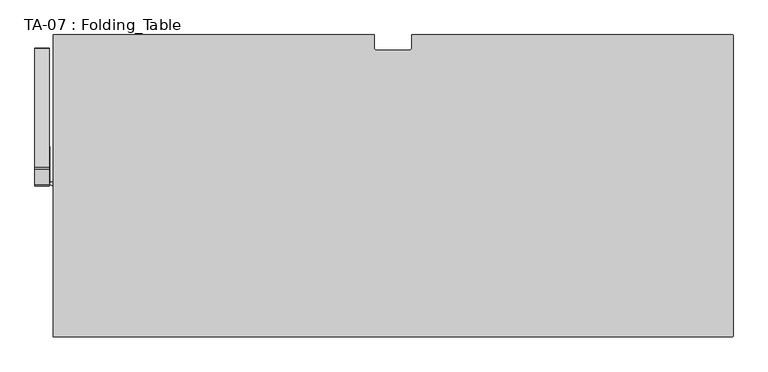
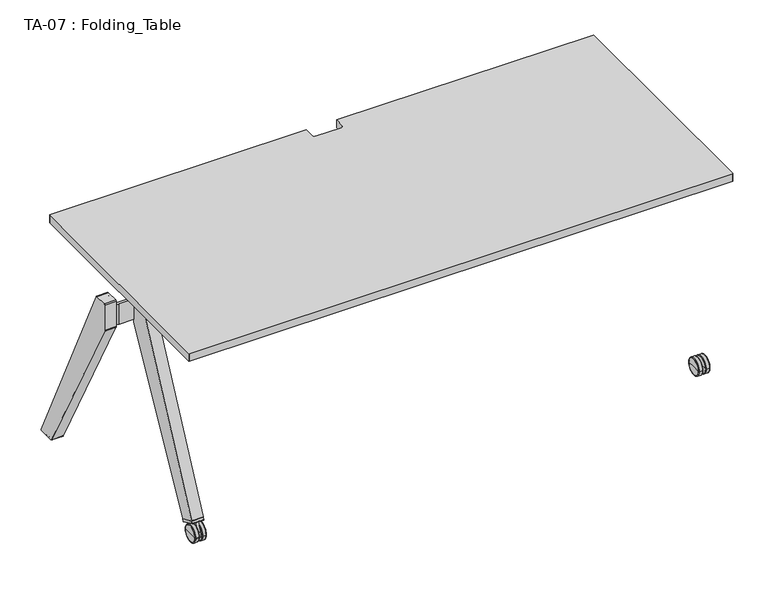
"""IFC4 building model written with IfcOpenShell, lengths in millimetres: furniture geometry, TA-07 : Folding_Table."""

from ifc_helpers import new_model, si_unit, point, frame, frame_2d, origin, place, context, project, spatial, polyline, circle_curve, ellipse_curve, trimmed, segment, composite_curve, outline, extrude, source, transform, mapped, element, save
from ifc_brep_helpers import plane_surface, cylinder_surface, revolved_surface, extruded_surface, spline_curve, advanced_brep


def ta_07_folding_table_425944e8(model_context):
    return source(origin(), model_context, "Body", "SolidModel", [
        extrude(outline(composite_curve([segment(polyline([(49.9986267, -34.0133667), (49.9986267, 0.0), (898.5316498, 0.0)]), True, "CONTINUOUS"), segment(trimmed(circle_curve(frame_2d((898.5316498, -1.4669769)), 1.4669769), [point((898.5316498, 0.0))], [point((899.9986267, -1.4669769))], False, "CARTESIAN"), True, "CONTINUOUS"), segment(polyline([(899.9986267, -1.4669769), (899.9986267, -798.4539807)]), True, "CONTINUOUS"), segment(trimmed(circle_curve(frame_2d((898.4526075, -798.4539807)), 1.5460193), [point((899.9986267, -798.4539807))], [point((898.4526075, -800.0))], False, "CARTESIAN"), True, "CONTINUOUS"), segment(polyline([(898.4526075, -800.0), (-898.4775657, -800.0)]), True, "CONTINUOUS"), segment(trimmed(circle_curve(frame_2d((-898.4775657, -798.4761924)), 1.5238076), [point((-898.4775657, -800.0))], [point((-900.0013733, -798.4761924))], False, "CARTESIAN"), True, "CONTINUOUS"), segment(polyline([(-900.0013733, -798.4761924), (-900.0013733, -1.5356928)]), True, "CONTINUOUS"), segment(trimmed(circle_curve(frame_2d((-898.4656805, -1.5356928)), 1.5356928), [point((-900.0013733, -1.5356928))], [point((-898.4656805, 0.0))], False, "CARTESIAN"), True, "CONTINUOUS"), segment(polyline([(-898.4656805, 0.0), (-50.0013733, 0.0), (-50.0013733, -34.0136719)]), True, "CONTINUOUS"), segment(trimmed(circle_curve(frame_2d((-43.5023498, -34.0136719)), 6.4990234), [point((-50.0013733, -34.0136719))], [point((-43.5023498, -40.5126953))], True, "CARTESIAN"), True, "CONTINUOUS"), segment(polyline([(-43.5023498, -40.5126953), (43.4992981, -40.5126953)]), True, "CONTINUOUS"), segment(trimmed(circle_curve(frame_2d((43.4992981, -34.0133667)), 6.4993286), [point((43.4992981, -40.5126953))], [point((49.9986267, -34.0133667))], True, "CARTESIAN"), True, "CONTINUOUS")], self_intersect=False)), frame((0.0, 0.0, 694.5959473), z_axis=(0.0, 0.0, 1.0), x_axis=(1.0, 0.0, 0.0)), (0.0, 0.0, 1.0), 26.6889191),
        advanced_brep(
        [(-851.9981384, -750.0700684, 28.801899), (-851.9981384, -696.0700684, 28.801899), (-837.8330994, -696.0700684, 28.801899), (-837.8330994, -750.0700684, 28.801899), (-851.9981384, -723.0700684, 28.801899), (-837.8330994, -723.0700684, 28.801899)],
        [
            (0, 1, circle_curve(frame((-851.9981384, -723.0700684, 28.801899), z_axis=(1.0, 0.0, 0.0), x_axis=(0.0, 1.0, 0.0)), 27.0)),
            (1, 2),
            (2, 3, circle_curve(frame((-837.8330994, -723.0700684, 28.801899), z_axis=(-1.0, 0.0, 0.0), x_axis=(0.0, 1.0, 0.0)), 27.0)),
            (3, 0),
            (1, 0, circle_curve(frame((-851.9981384, -723.0700684, 28.801899), z_axis=(1.0, 0.0, 0.0), x_axis=(0.0, 1.0, 0.0)), 27.0)),
            (3, 2, circle_curve(frame((-837.8330994, -723.0700684, 28.801899), z_axis=(-1.0, 0.0, 0.0), x_axis=(0.0, 1.0, 0.0)), 27.0)),
            (4, 1),
            (0, 4),
            (2, 5),
            (5, 3),
        ],
        [
            cylinder_surface(frame((-851.9981384, -723.0700684, 28.801899), z_axis=(-1.0, 0.0, 0.0), x_axis=(0.0, 1.0, 0.0)), 27.0),
            plane_surface(frame((-851.9981384, -723.0700684, 28.801899), z_axis=(-1.0, 0.0, 0.0), x_axis=(0.0, 1.0, 0.0))),
            plane_surface(frame((-837.8330994, -723.0700684, 28.801899), z_axis=(1.0, 0.0, 0.0), x_axis=(0.0, 1.0, 0.0))),
        ],
        [
            (0, [[1, 2, 3, 4]]),
            (0, [[5, -4, 6, -2]]),
            (1, [[7, -1, 8]]),
            (1, [[-8, -5, -7]]),
            (2, [[-3, 9, 10]]),
            (2, [[-6, -10, -9]]),
        ],
    ),
        advanced_brep(
        [(-828.1639099, -750.0700684, 28.801899), (-828.1639099, -696.0700684, 28.801899), (-813.9988708, -696.0700684, 28.801899), (-813.9988708, -750.0700684, 28.801899), (-813.9988708, -723.0700684, 28.801899), (-828.1639099, -723.0700684, 28.801899)],
        [
            (0, 1, circle_curve(frame((-828.1639099, -723.0700684, 28.801899), z_axis=(1.0, 0.0, 0.0), x_axis=(0.0, 1.0, 0.0)), 27.0)),
            (1, 2),
            (2, 3, circle_curve(frame((-813.9988708, -723.0700684, 28.801899), z_axis=(-1.0, 0.0, 0.0), x_axis=(0.0, 1.0, 0.0)), 27.0)),
            (3, 0),
            (1, 0, circle_curve(frame((-828.1639099, -723.0700684, 28.801899), z_axis=(1.0, 0.0, 0.0), x_axis=(0.0, 1.0, 0.0)), 27.0)),
            (3, 2, circle_curve(frame((-813.9988708, -723.0700684, 28.801899), z_axis=(-1.0, 0.0, 0.0), x_axis=(0.0, 1.0, 0.0)), 27.0)),
            (2, 4),
            (4, 3),
            (5, 1),
            (0, 5),
        ],
        [
            cylinder_surface(frame((-813.9988708, -723.0700684, 28.801899), z_axis=(-1.0, 0.0, 0.0), x_axis=(0.0, 1.0, 0.0)), 27.0),
            plane_surface(frame((-813.9988708, -723.0700684, 28.801899), z_axis=(1.0, 0.0, 0.0), x_axis=(0.0, 1.0, 0.0))),
            plane_surface(frame((-828.1639099, -723.0700684, 28.801899), z_axis=(-1.0, 0.0, 0.0), x_axis=(0.0, 1.0, 0.0))),
        ],
        [
            (0, [[1, 2, 3, 4]]),
            (0, [[5, -4, 6, -2]]),
            (1, [[-3, 7, 8]]),
            (1, [[-6, -8, -7]]),
            (2, [[9, -1, 10]]),
            (2, [[-10, -5, -9]]),
        ],
    ),
        advanced_brep(
        [(-815.9983826, -752.2741699, 28.801899), (-815.9983826, -693.8659668, 28.801899), (-813.9988708, -695.8826447, 28.801899), (-813.9988708, -750.2574921, 28.801899), (-828.1639099, -695.8826447, 28.801899), (-828.1639099, -750.2574921, 28.801899), (-828.1639099, -695.0295977, 28.801899), (-828.1639099, -751.1105391, 28.801899), (-827.0002791, -693.8659668, 28.801899), (-827.0002791, -752.2741699, 28.801899)],
        [
            (0, 1, circle_curve(frame((-815.9983826, -723.0700684, 28.801899), z_axis=(1.0, 0.0, 0.0), x_axis=(0.0, 1.0, 0.0)), 29.2041016)),
            (1, 2, spline_curve(3, [(-815.9983826, -693.8659668, 28.801899), (-814.861767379, -694.09662097, 28.801899), (-814.195263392, -694.768846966, 28.801899), (-813.9988708, -695.8826447, 28.801899)], [4, 4], [0.0, 0.005636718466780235])),
            (2, 3, circle_curve(frame((-813.9988708, -723.0700684, 28.801899), z_axis=(-1.0, 0.0, 0.0), x_axis=(0.0, 1.0, 0.0)), 27.1874237)),
            (3, 0, spline_curve(3, [(-813.9988708, -750.2574921, 28.801899), (-814.195263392, -751.371289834, 28.801899), (-814.861767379, -752.04351573, 28.801899), (-815.9983826, -752.2741699, 28.801899)], [4, 4], [0.0, 0.005636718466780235])),
            (1, 0, circle_curve(frame((-815.9983826, -723.0700684, 28.801899), z_axis=(1.0, 0.0, 0.0), x_axis=(0.0, 1.0, 0.0)), 29.2041016)),
            (3, 2, circle_curve(frame((-813.9988708, -723.0700684, 28.801899), z_axis=(-1.0, 0.0, 0.0), x_axis=(0.0, 1.0, 0.0)), 27.1874237)),
            (2, 4),
            (4, 5, circle_curve(frame((-828.1639099, -723.0700684, 28.801899), z_axis=(-1.0, 0.0, 0.0), x_axis=(0.0, 1.0, 0.0)), 27.1874237)),
            (5, 3),
            (5, 4, circle_curve(frame((-828.1639099, -723.0700684, 28.801899), z_axis=(-1.0, 0.0, 0.0), x_axis=(0.0, 1.0, 0.0)), 27.1874237)),
            (4, 6),
            (6, 7, circle_curve(frame((-828.1639099, -723.0700684, 28.801899), z_axis=(-1.0, 0.0, 0.0), x_axis=(0.0, 1.0, 0.0)), 28.0404707)),
            (7, 5),
            (7, 6, circle_curve(frame((-828.1639099, -723.0700684, 28.801899), z_axis=(-1.0, 0.0, 0.0), x_axis=(0.0, 1.0, 0.0)), 28.0404707)),
            (6, 8, circle_curve(frame((-827.0002791, -695.0295977, 28.801899), z_axis=(0.0, 0.0, -1.0), x_axis=(-1.0, 0.0, 0.0)), 1.1636309)),
            (8, 9, circle_curve(frame((-827.0002791, -723.0700684, 28.801899), z_axis=(-1.0, 0.0, 0.0), x_axis=(0.0, 1.0, 0.0)), 29.2041016)),
            (9, 7, circle_curve(frame((-827.0002791, -751.1105391, 28.801899), z_axis=(0.0, 0.0, -1.0), x_axis=(-1.0, 0.0, 0.0)), 1.1636309)),
            (9, 8, circle_curve(frame((-827.0002791, -723.0700684, 28.801899), z_axis=(-1.0, 0.0, 0.0), x_axis=(0.0, 1.0, 0.0)), 29.2041016)),
            (8, 1),
            (0, 9),
        ],
        [
            revolved_surface(spline_curve(3, [(-813.9988708, -695.8826447, 28.801899), (-814.195263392, -694.768846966, 28.801899), (-814.861767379, -694.09662097, 28.801899), (-815.9983826, -693.8659668, 28.801899)], [4, 4], [0.0, 0.005636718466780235]), (-828.1639099, -723.0700684, 28.801899), (-1.0, 0.0, 0.0)),
            revolved_surface(polyline([(-828.1639099, -695.8826447, 28.801899), (-813.9988708, -695.8826447, 28.801899)]), (-828.1639099, -723.0700684, 28.801899), (-1.0, 0.0, 0.0)),
            plane_surface(frame((-828.1639099, -723.0700684, 28.801899), z_axis=(-1.0, 0.0, 0.0), x_axis=(0.0, 1.0, 0.0))),
            revolved_surface(trimmed(ellipse_curve(frame((-827.0002791, -695.0295977, 28.801899), z_axis=(0.0, 0.0, 1.0), x_axis=(-1.0, 0.0, 0.0)), 1.1636309, 1.1636309), [point((-827.0002791, -693.8659668, 28.801899))], [point((-828.1639099, -695.0295977, 28.801899))], True, "CARTESIAN"), (-828.1639099, -723.0700684, 28.801899), (-1.0, 0.0, 0.0)),
            cylinder_surface(frame((-828.1639099, -723.0700684, 28.801899), z_axis=(-1.0, 0.0, 0.0), x_axis=(0.0, 1.0, 0.0)), 29.2041016),
        ],
        [
            (0, [[1, 2, 3, 4]]),
            (0, [[5, -4, 6, -2]]),
            (1, [[-3, 7, 8, 9]]),
            (1, [[-6, -9, 10, -7]]),
            (2, [[-8, 11, 12, 13]]),
            (2, [[-10, -13, 14, -11]]),
            (3, [[-12, 15, 16, 17]]),
            (3, [[-14, -17, 18, -15]]),
            (4, [[-16, 19, -1, 20]]),
            (4, [[-18, -20, -5, -19]]),
        ],
    ),
        advanced_brep(
        [(-851.9981384, -750.2574921, 28.801899), (-851.9981384, -695.8826447, 28.801899), (-849.9986267, -693.8659668, 28.801899), (-849.9986267, -752.2741699, 28.801899), (-837.8330994, -750.2574921, 28.801899), (-837.8330994, -695.8826447, 28.801899), (-837.8330994, -751.1105391, 28.801899), (-837.8330994, -695.0295977, 28.801899), (-838.9967302, -752.2741699, 28.801899), (-838.9967302, -693.8659668, 28.801899)],
        [
            (0, 1, circle_curve(frame((-851.9981384, -723.0700684, 28.801899), z_axis=(1.0, 0.0, 0.0), x_axis=(0.0, 1.0, 0.0)), 27.1874237)),
            (1, 2, spline_curve(3, [(-851.9981384, -695.8826447, 28.801899), (-851.801745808, -694.768846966, 28.801899), (-851.135241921, -694.09662097, 28.801899), (-849.9986267, -693.8659668, 28.801899)], [4, 4], [0.0, 0.005636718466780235])),
            (2, 3, circle_curve(frame((-849.9986267, -723.0700684, 28.801899), z_axis=(-1.0, 0.0, 0.0), x_axis=(0.0, 1.0, 0.0)), 29.2041016)),
            (3, 0, spline_curve(3, [(-849.9986267, -752.2741699, 28.801899), (-851.135241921, -752.04351573, 28.801899), (-851.801745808, -751.371289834, 28.801899), (-851.9981384, -750.2574921, 28.801899)], [4, 4], [0.0, 0.005636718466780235])),
            (1, 0, circle_curve(frame((-851.9981384, -723.0700684, 28.801899), z_axis=(1.0, 0.0, 0.0), x_axis=(0.0, 1.0, 0.0)), 27.1874237)),
            (3, 2, circle_curve(frame((-849.9986267, -723.0700684, 28.801899), z_axis=(-1.0, 0.0, 0.0), x_axis=(0.0, 1.0, 0.0)), 29.2041016)),
            (4, 5, circle_curve(frame((-837.8330994, -723.0700684, 28.801899), z_axis=(1.0, 0.0, 0.0), x_axis=(0.0, 1.0, 0.0)), 27.1874237)),
            (5, 1),
            (0, 4),
            (5, 4, circle_curve(frame((-837.8330994, -723.0700684, 28.801899), z_axis=(1.0, 0.0, 0.0), x_axis=(0.0, 1.0, 0.0)), 27.1874237)),
            (6, 7, circle_curve(frame((-837.8330994, -723.0700684, 28.801899), z_axis=(1.0, 0.0, 0.0), x_axis=(0.0, 1.0, 0.0)), 28.0404707)),
            (7, 5),
            (4, 6),
            (7, 6, circle_curve(frame((-837.8330994, -723.0700684, 28.801899), z_axis=(1.0, 0.0, 0.0), x_axis=(0.0, 1.0, 0.0)), 28.0404707)),
            (8, 9, circle_curve(frame((-838.9967302, -723.0700684, 28.801899), z_axis=(1.0, 0.0, 0.0), x_axis=(0.0, 1.0, 0.0)), 29.2041016)),
            (9, 7, circle_curve(frame((-838.9967302, -695.0295977, 28.801899), z_axis=(0.0, 0.0, -1.0), x_axis=(1.0, 0.0, 0.0)), 1.1636309)),
            (6, 8, circle_curve(frame((-838.9967302, -751.1105391, 28.801899), z_axis=(0.0, 0.0, -1.0), x_axis=(1.0, 0.0, 0.0)), 1.1636309)),
            (9, 8, circle_curve(frame((-838.9967302, -723.0700684, 28.801899), z_axis=(1.0, 0.0, 0.0), x_axis=(0.0, 1.0, 0.0)), 29.2041016)),
            (2, 9),
            (8, 3),
        ],
        [
            revolved_surface(spline_curve(3, [(-849.9986267, -693.8659668, 28.801899), (-851.135241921, -694.09662097, 28.801899), (-851.801745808, -694.768846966, 28.801899), (-851.9981384, -695.8826447, 28.801899)], [4, 4], [0.0, 0.005636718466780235]), (-837.8330994, -723.0700684, 28.801899), (-1.0, 0.0, 0.0)),
            revolved_surface(polyline([(-851.9981384, -695.8826447, 28.801899), (-837.8330994, -695.8826447, 28.801899)]), (-837.8330994, -723.0700684, 28.801899), (-1.0, 0.0, 0.0)),
            plane_surface(frame((-837.8330994, -723.0700684, 28.801899), z_axis=(1.0, 0.0, 0.0), x_axis=(0.0, 1.0, 0.0))),
            revolved_surface(trimmed(ellipse_curve(frame((-838.9967302, -695.0295977, 28.801899), z_axis=(0.0, 0.0, 1.0), x_axis=(1.0, 0.0, 0.0)), 1.1636309, 1.1636309), [point((-837.8330994, -695.0295977, 28.801899))], [point((-838.9967302, -693.8659668, 28.801899))], True, "CARTESIAN"), (-837.8330994, -723.0700684, 28.801899), (-1.0, 0.0, 0.0)),
            cylinder_surface(frame((-837.8330994, -723.0700684, 28.801899), z_axis=(-1.0, 0.0, 0.0), x_axis=(0.0, 1.0, 0.0)), 29.2041016),
        ],
        [
            (0, [[1, 2, 3, 4]]),
            (0, [[5, -4, 6, -2]]),
            (1, [[7, 8, -1, 9]]),
            (1, [[10, -9, -5, -8]]),
            (2, [[11, 12, -7, 13]]),
            (2, [[14, -13, -10, -12]]),
            (3, [[15, 16, -11, 17]]),
            (3, [[18, -17, -14, -16]]),
            (4, [[-3, 19, -15, 20]]),
            (4, [[-6, -20, -18, -19]]),
        ],
    ),
        extrude(outline(composite_curve([segment(trimmed(circle_curve(frame_2d((-411.1737873, 657.4744366)), 3.9557697), [point((-411.1737873, 661.4302063))], [point((-407.2180176, 657.4744366))], False, "CARTESIAN"), True, "CONTINUOUS"), segment(polyline([(-407.2180176, 657.4744366), (-407.2180176, 580.7332459)]), True, "CONTINUOUS"), segment(trimmed(circle_curve(frame_2d((-423.8997381, 580.7332459)), 16.6817205), [point((-407.2180176, 580.7332459))], [point((-409.2078722, 572.8320514))], False, "CARTESIAN"), True, "CONTINUOUS"), segment(polyline([(-409.2078722, 572.8320514), (-428.5069657, 536.9463768)]), True, "CONTINUOUS"), segment(trimmed(circle_curve(frame_2d((-434.4430481, 540.1387651)), 6.7400606), [point((-428.5069657, 536.9463768))], [point((-434.4430443, 533.3987045))], False, "CARTESIAN"), True, "CONTINUOUS"), segment(polyline([(-434.4430443, 533.3987045), (-501.31263, 533.3986664)]), True, "CONTINUOUS"), segment(trimmed(circle_curve(frame_2d((-501.3126315, 535.901147)), 2.5024806), [point((-501.31263, 533.3986664))], [point((-503.5629913, 536.9958113))], False, "CARTESIAN"), True, "CONTINUOUS"), segment(polyline([(-503.5629913, 536.9958113), (-444.8760864, 657.6416082)]), True, "CONTINUOUS"), segment(trimmed(circle_curve(frame_2d((-438.8201053, 654.6957385)), 6.7344678), [point((-444.8760864, 657.6416082))], [point((-438.8201053, 661.4302063))], False, "CARTESIAN"), True, "CONTINUOUS"), segment(polyline([(-438.8201053, 661.4302063), (-411.1737873, 661.4302063)]), True, "CONTINUOUS")], self_intersect=False)), frame((-813.9985657, 0.0, 0.0), z_axis=(1.0, 0.0, 0.0), x_axis=(0.0, 1.0, 0.0)), (0.0, 0.0, 1.0), 1.2182617),
        extrude(outline(composite_curve([segment(polyline([(-388.8262127, 661.4302063), (-361.1798947, 661.4302063)]), True, "CONTINUOUS"), segment(trimmed(circle_curve(frame_2d((-361.1798947, 654.6957385)), 6.7344678), [point((-361.1798947, 661.4302063))], [point((-355.1239136, 657.6416082))], False, "CARTESIAN"), True, "CONTINUOUS"), segment(polyline([(-355.1239136, 657.6416082), (-296.4370087, 536.9958113)]), True, "CONTINUOUS"), segment(trimmed(circle_curve(frame_2d((-298.6873685, 535.901147)), 2.5024806), [point((-296.4370087, 536.9958113))], [point((-298.68737, 533.3986664))], False, "CARTESIAN"), True, "CONTINUOUS"), segment(polyline([(-298.68737, 533.3986664), (-365.5569557, 533.3987045)]), True, "CONTINUOUS"), segment(trimmed(circle_curve(frame_2d((-365.5569519, 540.1387651)), 6.7400606), [point((-365.5569557, 533.3987045))], [point((-371.4930343, 536.9463768))], False, "CARTESIAN"), True, "CONTINUOUS"), segment(polyline([(-371.4930343, 536.9463768), (-390.7921278, 572.8320514)]), True, "CONTINUOUS"), segment(trimmed(circle_curve(frame_2d((-376.1002619, 580.7332459)), 16.6817205), [point((-390.7921278, 572.8320514))], [point((-392.7819824, 580.7332459))], False, "CARTESIAN"), True, "CONTINUOUS"), segment(polyline([(-392.7819824, 580.7332459), (-392.7819824, 657.4744366)]), True, "CONTINUOUS"), segment(trimmed(circle_curve(frame_2d((-388.8262127, 657.4744366)), 3.9557697), [point((-392.7819824, 657.4744366))], [point((-388.8262127, 661.4302063))], False, "CARTESIAN"), True, "CONTINUOUS")], self_intersect=False)), frame((-909.9983215, 0.0, 0.0), z_axis=(1.0, 0.0, 0.0), x_axis=(0.0, 1.0, 0.0)), (0.0, 0.0, 1.0), 1.2182617),
        extrude(outline(composite_curve([segment(trimmed(circle_curve(frame_2d((-822.780304, -400.0)), 10.0), [point((-822.780304, -390.0))], [point((-812.780304, -400.0))], False, "CARTESIAN"), True, "CONTINUOUS"), segment(polyline([(-812.780304, -400.0), (-812.780304, -407.2180176), (-814.0065002, -407.2180176), (-814.0065002, -400.0), (-899.9983215, -400.0)]), True, "CONTINUOUS"), segment(trimmed(circle_curve(frame_2d((-899.9983215, -390.0)), 10.0), [point((-899.9983215, -400.0))], [point((-909.9983215, -390.0))], False, "CARTESIAN"), True, "CONTINUOUS"), segment(polyline([(-909.9983215, -390.0), (-909.9983215, -385.991464), (-908.7800598, -385.991464)]), True, "CONTINUOUS"), segment(trimmed(circle_curve(frame_2d((-904.7715239, -385.991464)), 4.008536), [point((-908.7800598, -385.991464))], [point((-904.7715239, -390.0))], True, "CARTESIAN"), True, "CONTINUOUS"), segment(polyline([(-904.7715239, -390.0), (-822.780304, -390.0)]), True, "CONTINUOUS")], self_intersect=False)), frame((0.0, 0.0, 582.8483963), z_axis=(0.0, 0.0, 1.0), x_axis=(1.0, 0.0, 0.0)), (0.0, 0.0, 1.0), 69.9998856),
        extrude(outline(composite_curve([segment(polyline([(-732.3899502, 78.2882255), (-680.4574418, 54.186971), (-683.7228327, 48.1139125)]), True, "CONTINUOUS"), segment(trimmed(circle_curve(frame_2d((-685.1821687, 48.8985752)), 1.6569119), [point((-683.7228327, 48.1139125))], [point((-685.8796773, 47.3956317))], False, "CARTESIAN"), True, "CONTINUOUS"), segment(polyline([(-685.8796773, 47.3956317), (-734.8756253, 70.1344057)]), True, "CONTINUOUS"), segment(trimmed(circle_curve(frame_2d((-734.3351562, 71.2989712)), 1.283869), [point((-734.8756253, 70.1344057))], [point((-735.4915767, 71.8566553))], False, "CARTESIAN"), True, "CONTINUOUS"), segment(polyline([(-735.4915767, 71.8566553), (-732.3899502, 78.2882255)]), True, "CONTINUOUS")], self_intersect=False)), frame((-851.9984436, 0.0, 0.0), z_axis=(1.0, 0.0, 0.0), x_axis=(0.0, 1.0, 0.0)), (0.0, 0.0, 1.0), 37.9998779),
        advanced_brep(
        [(-837.8330994, -741.9613773, 37.5714478), (-837.8330994, -728.059082, 67.5213623), (-837.8330994, -690.2764968, 49.9848002), (-837.8330994, -704.1780804, 20.0337892), (-828.1639099, -741.9613773, 37.5714478), (-828.1639099, -704.1780804, 20.0337892), (-828.1639099, -690.2764968, 49.9848002), (-828.1639099, -728.059082, 67.5213623)],
        [
            (0, 1),
            (1, 2),
            (2, 3),
            (3, 0, ellipse_curve(frame((-837.8330994, -723.0698751, 28.8023033), z_axis=(-1.0, 0.0, 0.0), x_axis=(0.0, -0.9070580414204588, 0.42100559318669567)), 20.8275479, 20.7758644)),
            (4, 5, ellipse_curve(frame((-828.1639099, -723.0698751, 28.8023033), z_axis=(1.0, 0.0, 0.0), x_axis=(0.0, -0.9070580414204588, 0.42100559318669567)), 20.8275479, 20.7758644)),
            (5, 6),
            (6, 7),
            (7, 4),
            (3, 5),
            (4, 0),
            (2, 6),
            (1, 7),
        ],
        [
            plane_surface(frame((-837.8330994, -728.059082, 67.5213623), z_axis=(-1.0, 0.0, 0.0), x_axis=(0.0, 0.4210360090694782, 0.9070439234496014))),
            plane_surface(frame((-828.1639099, -728.059082, 67.5213623), z_axis=(1.0, 0.0, 0.0), x_axis=(0.0, -0.4210360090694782, -0.9070439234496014))),
            extruded_surface(trimmed(ellipse_curve(frame((-818.4947205, -723.0698751, 28.8023033), z_axis=(-1.0, 0.0, 0.0), x_axis=(0.0, -0.9070580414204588, 0.42100559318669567)), 20.8275479, 20.7758644), [point((-818.4947205, -704.1780804, 20.0337892))], [point((-818.4947205, -741.9613773, 37.5714478))], True, "CARTESIAN"), (-9.66918940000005, 0.0, 0.0), 9.66918940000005),
            plane_surface(frame((-837.8330994, -690.2764968, 49.9848002), z_axis=(0.0, 0.9070580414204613, -0.42100559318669), x_axis=(1.0, 0.0, 0.0))),
            plane_surface(frame((-837.8330994, -728.059082, 67.5213623), z_axis=(0.0, 0.4210055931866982, 0.9070580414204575), x_axis=(1.0, 0.0, 0.0))),
            plane_surface(frame((-837.8330994, -741.9613773, 37.5714478), z_axis=(0.0, -0.9070439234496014, 0.4210360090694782), x_axis=(1.0, 0.0, 0.0))),
        ],
        [
            (0, [[1, 2, 3, 4]]),
            (1, [[5, 6, 7, 8]]),
            (2, [[-4, 9, -5, 10]]),
            (3, [[-3, 11, -6, -9]]),
            (4, [[-2, 12, -7, -11]]),
            (5, [[-1, -10, -8, -12]]),
        ],
    ),
        advanced_brep(
        [(-928.9982605, -59.3579102, 8.4972829), (-943.8835144, -59.3579102, 8.4972829), (-914.1130066, -59.3579102, 8.4972829), (-917.3508998, -59.3579102, -0.4026309), (-940.6456212, -59.3579102, -0.4026309), (-928.9982605, -59.3579102, -0.4026309), (-914.1130066, -59.3579102, 2.8352622), (-943.8835144, -59.3579102, 2.8352622)],
        [
            (0, 1),
            (1, 2, circle_curve(frame((-928.9982605, -59.3579102, 8.4972829), z_axis=(0.0, 0.0, 1.0), x_axis=(-1.0, 0.0, 0.0)), 14.8852539)),
            (2, 0),
            (2, 1, circle_curve(frame((-928.9982605, -59.3579102, 8.4972829), z_axis=(0.0, 0.0, 1.0), x_axis=(-1.0, 0.0, 0.0)), 14.8852539)),
            (3, 4, circle_curve(frame((-928.9982605, -59.3579102, -0.4026309), z_axis=(0.0, 0.0, -1.0), x_axis=(-1.0, 0.0, 0.0)), 11.6473607)),
            (4, 5),
            (5, 3),
            (4, 3, circle_curve(frame((-928.9982605, -59.3579102, -0.4026309), z_axis=(0.0, 0.0, -1.0), x_axis=(-1.0, 0.0, 0.0)), 11.6473607)),
            (6, 7, circle_curve(frame((-928.9982605, -59.3579102, 2.8352622), z_axis=(0.0, 0.0, -1.0), x_axis=(-1.0, 0.0, 0.0)), 14.8852539)),
            (7, 4, circle_curve(frame((-940.6456212, -59.3579102, 2.8352622), z_axis=(0.0, -1.0, 0.0), x_axis=(-1.0, 0.0, 0.0)), 3.2378932)),
            (3, 6, circle_curve(frame((-917.3508998, -59.3579102, 2.8352622), z_axis=(0.0, -1.0, 0.0), x_axis=(1.0, 0.0, 0.0)), 3.2378932)),
            (7, 6, circle_curve(frame((-928.9982605, -59.3579102, 2.8352622), z_axis=(0.0, 0.0, -1.0), x_axis=(-1.0, 0.0, 0.0)), 14.8852539)),
            (1, 7),
            (6, 2),
        ],
        [
            plane_surface(frame((-928.9982605, -59.3579102, 8.4972829), z_axis=(0.0, 0.0, 1.0), x_axis=(-1.0, 0.0, 0.0))),
            plane_surface(frame((-928.9982605, -59.3579102, -0.4026309), z_axis=(0.0, 0.0, -1.0), x_axis=(-1.0, 0.0, 0.0))),
            revolved_surface(trimmed(ellipse_curve(frame((-940.6456212, -59.3579102, 2.8352622), z_axis=(0.0, 1.0, 0.0), x_axis=(-1.0, 0.0, 0.0)), 3.2378932, 3.2378932), [point((-940.6456212, -59.3579102, -0.402631))], [point((-943.8835144, -59.3579102, 2.8352622))], True, "CARTESIAN"), (-928.9982605, -59.3579102, 2.5970915), (0.0, 0.0, 1.0)),
            cylinder_surface(frame((-928.9982605, -59.3579102, 2.5970915), z_axis=(0.0, 0.0, 1.0), x_axis=(-1.0, 0.0, 0.0)), 14.8852539),
        ],
        [
            (0, [[1, 2, 3]]),
            (0, [[-3, 4, -1]]),
            (1, [[5, 6, 7]]),
            (1, [[8, -7, -6]]),
            (2, [[9, 10, -5, 11]]),
            (2, [[12, -11, -8, -10]]),
            (3, [[-2, 13, -9, 14]]),
            (3, [[-4, -14, -12, -13]]),
        ],
    ),
        extrude(outline(composite_curve([segment(trimmed(circle_curve(frame_2d((-444.7968515, 664.0430982)), 4.6051256), [point((-448.9448302, 666.043462))], [point((-444.7968515, 668.6482239))], False, "CARTESIAN"), True, "CONTINUOUS"), segment(polyline([(-444.7968515, 668.6482239), (-403.017943, 668.6482239)]), True, "CONTINUOUS"), segment(trimmed(circle_curve(frame_2d((-403.017943, 665.6302809)), 3.017943), [point((-403.017943, 668.6482239))], [point((-400.0, 665.6302809))], False, "CARTESIAN"), True, "CONTINUOUS"), segment(polyline([(-400.0, 665.6302809), (-400.0, 578.3069586)]), True, "CONTINUOUS"), segment(trimmed(circle_curve(frame_2d((-410.0, 578.3069586)), 10.0), [point((-400.0, 578.3069586))], [point((-401.1924346, 573.5712652))], False, "CARTESIAN"), True, "CONTINUOUS"), segment(polyline([(-401.1924346, 573.5712652), (-679.7176354, 55.5628822)]), True, "CONTINUOUS"), segment(trimmed(circle_curve(frame_2d((-681.1769714, 56.3475449)), 1.6569119), [point((-679.7176354, 55.5628822))], [point((-681.8744713, 54.8445974))], False, "CARTESIAN"), True, "CONTINUOUS"), segment(polyline([(-681.8744713, 54.8445974), (-731.2079702, 77.7396827)]), True, "CONTINUOUS"), segment(trimmed(circle_curve(frame_2d((-730.6675078, 78.9042514)), 1.283869), [point((-731.2079702, 77.7396827))], [point((-731.8239283, 79.4619355))], False, "CARTESIAN"), True, "CONTINUOUS"), segment(polyline([(-731.8239283, 79.4619355), (-448.9448302, 666.043462)]), True, "CONTINUOUS")], self_intersect=False)), frame((-851.9984436, 0.0, 0.0), z_axis=(1.0, 0.0, 0.0), x_axis=(0.0, 1.0, 0.0)), (0.0, 0.0, 1.0), 37.9998779),
        extrude(outline(composite_curve([segment(polyline([(-351.0551698, 666.043462), (-35.2405628, 11.166465)]), True, "CONTINUOUS"), segment(trimmed(circle_curve(frame_2d((-36.9167231, 10.3581362)), 1.8608892), [point((-35.2405628, 11.166465))], [point((-36.9167243, 8.4972471))], False, "CARTESIAN"), True, "CONTINUOUS"), segment(polyline([(-36.9167243, 8.4972471), (-92.0703429, 8.4972829)]), True, "CONTINUOUS"), segment(trimmed(circle_curve(frame_2d((-92.0703397, 13.3585124)), 4.8612295), [point((-92.0703429, 8.4972829))], [point((-96.3518994, 11.0563832))], False, "CARTESIAN"), True, "CONTINUOUS"), segment(polyline([(-96.3518994, 11.0563832), (-398.8075654, 573.5712652)]), True, "CONTINUOUS"), segment(trimmed(circle_curve(frame_2d((-390.0, 578.3069586)), 10.0), [point((-398.8075654, 573.5712652))], [point((-400.0, 578.3069586))], False, "CARTESIAN"), True, "CONTINUOUS"), segment(polyline([(-400.0, 578.3069586), (-400.0, 665.6302809)]), True, "CONTINUOUS"), segment(trimmed(circle_curve(frame_2d((-396.982057, 665.6302809)), 3.017943), [point((-400.0, 665.6302809))], [point((-396.982057, 668.6482239))], False, "CARTESIAN"), True, "CONTINUOUS"), segment(polyline([(-396.982057, 668.6482239), (-355.2031485, 668.6482239)]), True, "CONTINUOUS"), segment(trimmed(circle_curve(frame_2d((-355.2031485, 664.0430982)), 4.6051256), [point((-355.2031485, 668.6482239))], [point((-351.0551698, 666.043462))], False, "CARTESIAN"), True, "CONTINUOUS")], self_intersect=False)), frame((-947.9985046, 0.0, 0.0), z_axis=(1.0, 0.0, 0.0), x_axis=(0.0, 1.0, 0.0)), (0.0, 0.0, 1.0), 38.0001831),
        advanced_brep(
        [(837.8330994, -750.0700684, 28.801899), (837.8330994, -696.0700684, 28.801899), (851.9981384, -696.0700684, 28.801899), (851.9981384, -750.0700684, 28.801899), (851.9981384, -723.0700684, 28.801899), (837.8330994, -723.0700684, 28.801899)],
        [
            (0, 1, circle_curve(frame((837.8330994, -723.0700684, 28.801899), z_axis=(1.0, 0.0, 0.0), x_axis=(0.0, 1.0, 0.0)), 27.0)),
            (1, 2),
            (2, 3, circle_curve(frame((851.9981384, -723.0700684, 28.801899), z_axis=(-1.0, 0.0, 0.0), x_axis=(0.0, 1.0, 0.0)), 27.0)),
            (3, 0),
            (1, 0, circle_curve(frame((837.8330994, -723.0700684, 28.801899), z_axis=(1.0, 0.0, 0.0), x_axis=(0.0, 1.0, 0.0)), 27.0)),
            (3, 2, circle_curve(frame((851.9981384, -723.0700684, 28.801899), z_axis=(-1.0, 0.0, 0.0), x_axis=(0.0, 1.0, 0.0)), 27.0)),
            (2, 4),
            (4, 3),
            (5, 1),
            (0, 5),
        ],
        [
            cylinder_surface(frame((851.9981384, -723.0700684, 28.801899), z_axis=(-1.0, 0.0, 0.0), x_axis=(0.0, 1.0, 0.0)), 27.0),
            plane_surface(frame((851.9981384, -723.0700684, 28.801899), z_axis=(1.0, 0.0, 0.0), x_axis=(0.0, 1.0, 0.0))),
            plane_surface(frame((837.8330994, -723.0700684, 28.801899), z_axis=(-1.0, 0.0, 0.0), x_axis=(0.0, 1.0, 0.0))),
        ],
        [
            (0, [[1, 2, 3, 4]]),
            (0, [[5, -4, 6, -2]]),
            (1, [[-3, 7, 8]]),
            (1, [[-6, -8, -7]]),
            (2, [[9, -1, 10]]),
            (2, [[-10, -5, -9]]),
        ],
    ),
        advanced_brep(
        [(813.9988708, -750.0700684, 28.801899), (813.9988708, -696.0700684, 28.801899), (828.1639099, -696.0700684, 28.801899), (828.1639099, -750.0700684, 28.801899), (813.9988708, -723.0700684, 28.801899), (828.1639099, -723.0700684, 28.801899)],
        [
            (0, 1, circle_curve(frame((813.9988708, -723.0700684, 28.801899), z_axis=(1.0, 0.0, 0.0), x_axis=(0.0, 1.0, 0.0)), 27.0)),
            (1, 2),
            (2, 3, circle_curve(frame((828.1639099, -723.0700684, 28.801899), z_axis=(-1.0, 0.0, 0.0), x_axis=(0.0, 1.0, 0.0)), 27.0)),
            (3, 0),
            (1, 0, circle_curve(frame((813.9988708, -723.0700684, 28.801899), z_axis=(1.0, 0.0, 0.0), x_axis=(0.0, 1.0, 0.0)), 27.0)),
            (3, 2, circle_curve(frame((828.1639099, -723.0700684, 28.801899), z_axis=(-1.0, 0.0, 0.0), x_axis=(0.0, 1.0, 0.0)), 27.0)),
            (4, 1),
            (0, 4),
            (2, 5),
            (5, 3),
        ],
        [
            cylinder_surface(frame((813.9988708, -723.0700684, 28.801899), z_axis=(-1.0, 0.0, 0.0), x_axis=(0.0, 1.0, 0.0)), 27.0),
            plane_surface(frame((813.9988708, -723.0700684, 28.801899), z_axis=(-1.0, 0.0, 0.0), x_axis=(0.0, 1.0, 0.0))),
            plane_surface(frame((828.1639099, -723.0700684, 28.801899), z_axis=(1.0, 0.0, 0.0), x_axis=(0.0, 1.0, 0.0))),
        ],
        [
            (0, [[1, 2, 3, 4]]),
            (0, [[5, -4, 6, -2]]),
            (1, [[7, -1, 8]]),
            (1, [[-8, -5, -7]]),
            (2, [[-3, 9, 10]]),
            (2, [[-6, -10, -9]]),
        ],
    ),
        advanced_brep(
        [(813.9988708, -750.2574921, 28.801899), (813.9988708, -695.8826447, 28.801899), (815.9983826, -693.8659668, 28.801899), (815.9983826, -752.2741699, 28.801899), (828.1639099, -750.2574921, 28.801899), (828.1639099, -695.8826447, 28.801899), (828.1639099, -751.1105391, 28.801899), (828.1639099, -695.0295977, 28.801899), (827.0002791, -752.2741699, 28.801899), (827.0002791, -693.8659668, 28.801899)],
        [
            (0, 1, circle_curve(frame((813.9988708, -723.0700684, 28.801899), z_axis=(1.0, 0.0, 0.0), x_axis=(0.0, 1.0, 0.0)), 27.1874237)),
            (1, 2, spline_curve(3, [(813.9988708, -695.8826447, 28.801899), (814.195263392, -694.768846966, 28.801899), (814.861767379, -694.09662097, 28.801899), (815.9983826, -693.8659668, 28.801899)], [4, 4], [0.0, 0.005636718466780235])),
            (2, 3, circle_curve(frame((815.9983826, -723.0700684, 28.801899), z_axis=(-1.0, 0.0, 0.0), x_axis=(0.0, 1.0, 0.0)), 29.2041016)),
            (3, 0, spline_curve(3, [(815.9983826, -752.2741699, 28.801899), (814.861767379, -752.04351573, 28.801899), (814.195263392, -751.371289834, 28.801899), (813.9988708, -750.2574921, 28.801899)], [4, 4], [0.0, 0.005636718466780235])),
            (1, 0, circle_curve(frame((813.9988708, -723.0700684, 28.801899), z_axis=(1.0, 0.0, 0.0), x_axis=(0.0, 1.0, 0.0)), 27.1874237)),
            (3, 2, circle_curve(frame((815.9983826, -723.0700684, 28.801899), z_axis=(-1.0, 0.0, 0.0), x_axis=(0.0, 1.0, 0.0)), 29.2041016)),
            (4, 5, circle_curve(frame((828.1639099, -723.0700684, 28.801899), z_axis=(1.0, 0.0, 0.0), x_axis=(0.0, 1.0, 0.0)), 27.1874237)),
            (5, 1),
            (0, 4),
            (5, 4, circle_curve(frame((828.1639099, -723.0700684, 28.801899), z_axis=(1.0, 0.0, 0.0), x_axis=(0.0, 1.0, 0.0)), 27.1874237)),
            (6, 7, circle_curve(frame((828.1639099, -723.0700684, 28.801899), z_axis=(1.0, 0.0, 0.0), x_axis=(0.0, 1.0, 0.0)), 28.0404707)),
            (7, 5),
            (4, 6),
            (7, 6, circle_curve(frame((828.1639099, -723.0700684, 28.801899), z_axis=(1.0, 0.0, 0.0), x_axis=(0.0, 1.0, 0.0)), 28.0404707)),
            (8, 9, circle_curve(frame((827.0002791, -723.0700684, 28.801899), z_axis=(1.0, 0.0, 0.0), x_axis=(0.0, 1.0, 0.0)), 29.2041016)),
            (9, 7, circle_curve(frame((827.0002791, -695.0295977, 28.801899), z_axis=(0.0, 0.0, -1.0), x_axis=(1.0, 0.0, 0.0)), 1.1636309)),
            (6, 8, circle_curve(frame((827.0002791, -751.1105391, 28.801899), z_axis=(0.0, 0.0, -1.0), x_axis=(1.0, 0.0, 0.0)), 1.1636309)),
            (9, 8, circle_curve(frame((827.0002791, -723.0700684, 28.801899), z_axis=(1.0, 0.0, 0.0), x_axis=(0.0, 1.0, 0.0)), 29.2041016)),
            (2, 9),
            (8, 3),
        ],
        [
            revolved_surface(spline_curve(3, [(815.9983826, -693.8659668, 28.801899), (814.861767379, -694.09662097, 28.801899), (814.195263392, -694.768846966, 28.801899), (813.9988708, -695.8826447, 28.801899)], [4, 4], [0.0, 0.005636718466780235]), (828.1639099, -723.0700684, 28.801899), (-1.0, 0.0, 0.0)),
            revolved_surface(polyline([(813.9988708, -695.8826447, 28.801899), (828.1639099, -695.8826447, 28.801899)]), (828.1639099, -723.0700684, 28.801899), (-1.0, 0.0, 0.0)),
            plane_surface(frame((828.1639099, -723.0700684, 28.801899), z_axis=(1.0, 0.0, 0.0), x_axis=(0.0, 1.0, 0.0))),
            revolved_surface(trimmed(ellipse_curve(frame((827.0002791, -695.0295977, 28.801899), z_axis=(0.0, 0.0, 1.0), x_axis=(1.0, 0.0, 0.0)), 1.1636309, 1.1636309), [point((828.1639099, -695.0295977, 28.801899))], [point((827.0002791, -693.8659668, 28.801899))], True, "CARTESIAN"), (828.1639099, -723.0700684, 28.801899), (-1.0, 0.0, 0.0)),
            cylinder_surface(frame((828.1639099, -723.0700684, 28.801899), z_axis=(-1.0, 0.0, 0.0), x_axis=(0.0, 1.0, 0.0)), 29.2041016),
        ],
        [
            (0, [[1, 2, 3, 4]]),
            (0, [[5, -4, 6, -2]]),
            (1, [[7, 8, -1, 9]]),
            (1, [[10, -9, -5, -8]]),
            (2, [[11, 12, -7, 13]]),
            (2, [[14, -13, -10, -12]]),
            (3, [[15, 16, -11, 17]]),
            (3, [[18, -17, -14, -16]]),
            (4, [[-3, 19, -15, 20]]),
            (4, [[-6, -20, -18, -19]]),
        ],
    ),
        advanced_brep(
        [(849.9986267, -752.2741699, 28.801899), (849.9986267, -693.8659668, 28.801899), (851.9981384, -695.8826447, 28.801899), (851.9981384, -750.2574921, 28.801899), (837.8330994, -695.8826447, 28.801899), (837.8330994, -750.2574921, 28.801899), (837.8330994, -695.0295977, 28.801899), (837.8330994, -751.1105391, 28.801899), (838.9967302, -693.8659668, 28.801899), (838.9967302, -752.2741699, 28.801899)],
        [
            (0, 1, circle_curve(frame((849.9986267, -723.0700684, 28.801899), z_axis=(1.0, 0.0, 0.0), x_axis=(0.0, 1.0, 0.0)), 29.2041016)),
            (1, 2, spline_curve(3, [(849.9986267, -693.8659668, 28.801899), (851.135241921, -694.09662097, 28.801899), (851.801745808, -694.768846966, 28.801899), (851.9981384, -695.8826447, 28.801899)], [4, 4], [0.0, 0.005636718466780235])),
            (2, 3, circle_curve(frame((851.9981384, -723.0700684, 28.801899), z_axis=(-1.0, 0.0, 0.0), x_axis=(0.0, 1.0, 0.0)), 27.1874237)),
            (3, 0, spline_curve(3, [(851.9981384, -750.2574921, 28.801899), (851.801745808, -751.371289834, 28.801899), (851.135241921, -752.04351573, 28.801899), (849.9986267, -752.2741699, 28.801899)], [4, 4], [0.0, 0.005636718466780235])),
            (1, 0, circle_curve(frame((849.9986267, -723.0700684, 28.801899), z_axis=(1.0, 0.0, 0.0), x_axis=(0.0, 1.0, 0.0)), 29.2041016)),
            (3, 2, circle_curve(frame((851.9981384, -723.0700684, 28.801899), z_axis=(-1.0, 0.0, 0.0), x_axis=(0.0, 1.0, 0.0)), 27.1874237)),
            (2, 4),
            (4, 5, circle_curve(frame((837.8330994, -723.0700684, 28.801899), z_axis=(-1.0, 0.0, 0.0), x_axis=(0.0, 1.0, 0.0)), 27.1874237)),
            (5, 3),
            (5, 4, circle_curve(frame((837.8330994, -723.0700684, 28.801899), z_axis=(-1.0, 0.0, 0.0), x_axis=(0.0, 1.0, 0.0)), 27.1874237)),
            (4, 6),
            (6, 7, circle_curve(frame((837.8330994, -723.0700684, 28.801899), z_axis=(-1.0, 0.0, 0.0), x_axis=(0.0, 1.0, 0.0)), 28.0404707)),
            (7, 5),
            (7, 6, circle_curve(frame((837.8330994, -723.0700684, 28.801899), z_axis=(-1.0, 0.0, 0.0), x_axis=(0.0, 1.0, 0.0)), 28.0404707)),
            (6, 8, circle_curve(frame((838.9967302, -695.0295977, 28.801899), z_axis=(0.0, 0.0, -1.0), x_axis=(-1.0, 0.0, 0.0)), 1.1636309)),
            (8, 9, circle_curve(frame((838.9967302, -723.0700684, 28.801899), z_axis=(-1.0, 0.0, 0.0), x_axis=(0.0, 1.0, 0.0)), 29.2041016)),
            (9, 7, circle_curve(frame((838.9967302, -751.1105391, 28.801899), z_axis=(0.0, 0.0, -1.0), x_axis=(-1.0, 0.0, 0.0)), 1.1636309)),
            (9, 8, circle_curve(frame((838.9967302, -723.0700684, 28.801899), z_axis=(-1.0, 0.0, 0.0), x_axis=(0.0, 1.0, 0.0)), 29.2041016)),
            (8, 1),
            (0, 9),
        ],
        [
            revolved_surface(spline_curve(3, [(851.9981384, -695.8826447, 28.801899), (851.801745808, -694.768846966, 28.801899), (851.135241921, -694.09662097, 28.801899), (849.9986267, -693.8659668, 28.801899)], [4, 4], [0.0, 0.005636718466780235]), (837.8330994, -723.0700684, 28.801899), (-1.0, 0.0, 0.0)),
            revolved_surface(polyline([(837.8330994, -695.8826447, 28.801899), (851.9981384, -695.8826447, 28.801899)]), (837.8330994, -723.0700684, 28.801899), (-1.0, 0.0, 0.0)),
            plane_surface(frame((837.8330994, -723.0700684, 28.801899), z_axis=(-1.0, 0.0, 0.0), x_axis=(0.0, 1.0, 0.0))),
            revolved_surface(trimmed(ellipse_curve(frame((838.9967302, -695.0295977, 28.801899), z_axis=(0.0, 0.0, 1.0), x_axis=(-1.0, 0.0, 0.0)), 1.1636309, 1.1636309), [point((838.9967302, -693.8659668, 28.801899))], [point((837.8330994, -695.0295977, 28.801899))], True, "CARTESIAN"), (837.8330994, -723.0700684, 28.801899), (-1.0, 0.0, 0.0)),
            cylinder_surface(frame((837.8330994, -723.0700684, 28.801899), z_axis=(-1.0, 0.0, 0.0), x_axis=(0.0, 1.0, 0.0)), 29.2041016),
        ],
        [
            (0, [[1, 2, 3, 4]]),
            (0, [[5, -4, 6, -2]]),
            (1, [[-3, 7, 8, 9]]),
            (1, [[-6, -9, 10, -7]]),
            (2, [[-8, 11, 12, 13]]),
            (2, [[-10, -13, 14, -11]]),
            (3, [[-12, 15, 16, 17]]),
            (3, [[-14, -17, 18, -15]]),
            (4, [[-16, 19, -1, 20]]),
            (4, [[-18, -20, -5, -19]]),
        ],
    ),
        advanced_brep(
        [(-786.9972229, -600.0, 692.5959015), (-754.0971375, -600.0, 692.5959015), (-754.0971375, -600.0, 680.1652766), (-752.0973206, -600.0, 680.1652766), (-752.0973206, -600.0, 694.5959473), (-788.9970398, -600.0, 694.5959473), (-788.9970398, -600.0, 680.1652766), (-786.9972229, -600.0, 680.1652766), (-754.0971375, -200.0, 692.5959015), (-786.9972229, -200.0, 692.5959015), (-786.9972229, -200.0, 680.164896), (-788.9970398, -200.0, 680.164896), (-788.9970398, -200.0, 694.5959473), (-752.0973206, -200.0, 694.5959473), (-752.0973206, -200.0, 680.164896), (-754.0971375, -200.0, 680.164896), (-752.0973206, -420.0, 636.0191727), (-752.0973206, -380.0011244, 636.0191345), (-752.0973206, -208.0417176, 670.3585139), (-752.0973206, -591.9583135, 670.3589007), (-754.0971375, -420.0, 636.0191727), (-754.0971375, -591.9583135, 670.3589007), (-754.0971375, -208.0417176, 670.3585139), (-754.0971375, -380.0011244, 636.0191345), (-788.9970398, -420.0, 636.0191727), (-788.9970398, -591.9583135, 670.3589007), (-788.9970398, -208.0417176, 670.3585139), (-788.9970398, -380.0011244, 636.0191345), (-786.9972229, -420.0, 636.0191727), (-786.9972229, -380.0011244, 636.0191345), (-786.9972229, -208.0417176, 670.3585139), (-786.9972229, -591.9583135, 670.3589007)],
        [
            (0, 1),
            (1, 2),
            (2, 3),
            (3, 4),
            (4, 5),
            (5, 6),
            (6, 7),
            (7, 0),
            (8, 9),
            (9, 10),
            (10, 11),
            (11, 12),
            (12, 13),
            (13, 14),
            (14, 15),
            (15, 8),
            (4, 13),
            (12, 5),
            (0, 9),
            (8, 1),
            (16, 17),
            (17, 18),
            (18, 14, circle_curve(frame((-752.0973206, -210.0, 680.164896), z_axis=(1.0, 0.0, 0.0), x_axis=(0.0, 1.0, 0.0)), 10.0)),
            (3, 19, circle_curve(frame((-752.0973206, -590.0, 680.1652766), z_axis=(1.0, 0.0, 0.0), x_axis=(0.0, 1.0, 0.0)), 10.0)),
            (19, 16),
            (20, 21),
            (21, 2, circle_curve(frame((-754.0971375, -590.0, 680.1652766), z_axis=(-1.0, 0.0, 0.0), x_axis=(0.0, 1.0, 0.0)), 10.0)),
            (15, 22, circle_curve(frame((-754.0971375, -210.0, 680.164896), z_axis=(-1.0, 0.0, 0.0), x_axis=(0.0, 1.0, 0.0)), 10.0)),
            (22, 23),
            (23, 20),
            (16, 20),
            (23, 17),
            (22, 18),
            (21, 19),
            (24, 25),
            (25, 6, circle_curve(frame((-788.9970398, -590.0, 680.1652766), z_axis=(-1.0, 0.0, 0.0), x_axis=(0.0, 1.0, 0.0)), 10.0)),
            (11, 26, circle_curve(frame((-788.9970398, -210.0, 680.164896), z_axis=(-1.0, 0.0, 0.0), x_axis=(0.0, 1.0, 0.0)), 10.0)),
            (26, 27),
            (27, 24),
            (28, 29),
            (29, 30),
            (30, 10, circle_curve(frame((-786.9972229, -210.0, 680.164896), z_axis=(1.0, 0.0, 0.0), x_axis=(0.0, 1.0, 0.0)), 10.0)),
            (7, 31, circle_curve(frame((-786.9972229, -590.0, 680.1652766), z_axis=(1.0, 0.0, 0.0), x_axis=(0.0, 1.0, 0.0)), 10.0)),
            (31, 28),
            (27, 29),
            (28, 24),
            (26, 30),
            (25, 31),
        ],
        [
            plane_surface(frame((-754.0971375, -600.0, 694.5959473), z_axis=(0.0, -1.0, 0.0), x_axis=(-1.0, 0.0, 0.0))),
            plane_surface(frame((-754.0971375, -200.0, 694.5959473), z_axis=(0.0, 1.0, 0.0), x_axis=(1.0, 0.0, 0.0))),
            plane_surface(frame((-786.9972229, -200.0, 694.5959473), z_axis=(0.0, 0.0, 1.0), x_axis=(0.0, -1.0, 0.0))),
            plane_surface(frame((-754.0971375, -200.0, 692.5959015), z_axis=(0.0, 0.0, -1.0), x_axis=(0.0, -1.0, 0.0))),
            plane_surface(frame((-752.0973206, -380.0, 636.0191345), z_axis=(1.0, 0.0, 0.0), x_axis=(0.0, 0.9999999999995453, -9.536743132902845e-07))),
            plane_surface(frame((-754.0971375, -380.0, 636.0191345), z_axis=(-1.0, 0.0, 0.0), x_axis=(0.0, -0.9999999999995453, 9.536743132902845e-07))),
            plane_surface(frame((-752.0973206, -420.0, 636.0191727), z_axis=(0.0, -9.536743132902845e-07, -0.9999999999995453), x_axis=(-1.0, 0.0, 0.0))),
            plane_surface(frame((-752.0973206, -380.0011244, 636.0191345), z_axis=(0.0, 0.1958282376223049, -0.9806382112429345), x_axis=(-1.0, 0.0, 0.0))),
            cylinder_surface(frame((-754.0971375, -210.0, 680.164896), z_axis=(1.0, 0.0, 0.0), x_axis=(0.0, 1.0, 0.0)), 10.0),
            cylinder_surface(frame((-754.0971375, -590.0, 680.1652766), z_axis=(1.0, 0.0, 0.0), x_axis=(0.0, 1.0, 0.0)), 10.0),
            plane_surface(frame((-752.0973206, -591.9583135, 670.3589007), z_axis=(0.0, -0.1958313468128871, -0.9806375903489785), x_axis=(-1.0, 0.0, 0.0))),
            plane_surface(frame((-788.9970398, -592.1557617, 670.3983307), z_axis=(-1.0000000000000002, 0.0, 0.0), x_axis=(0.0, -0.9806375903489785, 0.1958313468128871))),
            plane_surface(frame((-786.9972229, -592.1557617, 670.3983307), z_axis=(1.0000000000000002, 0.0, 0.0), x_axis=(0.0, 0.9806375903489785, -0.1958313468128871))),
            plane_surface(frame((-788.9970398, -380.0011244, 636.0191345), z_axis=(0.0, -9.536743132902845e-07, -0.9999999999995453), x_axis=(1.0, 0.0, 0.0))),
            plane_surface(frame((-788.9970398, -208.0417176, 670.3585139), z_axis=(0.0, 0.1958282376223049, -0.9806382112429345), x_axis=(1.0, 0.0, 0.0))),
            cylinder_surface(frame((-786.9972229, -210.0, 680.164896), z_axis=(-1.0, 0.0, 0.0), x_axis=(0.0, 1.0, 0.0)), 10.0),
            cylinder_surface(frame((-786.9972229, -590.0, 680.1652766), z_axis=(-1.0, 0.0, 0.0), x_axis=(0.0, 1.0, 0.0)), 10.0),
            plane_surface(frame((-788.9970398, -420.0, 636.0191727), z_axis=(0.0, -0.1958313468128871, -0.9806375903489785), x_axis=(1.0, 0.0, 0.0))),
        ],
        [
            (0, [[1, 2, 3, 4, 5, 6, 7, 8]]),
            (1, [[9, 10, 11, 12, 13, 14, 15, 16]]),
            (2, [[-5, 17, -13, 18]]),
            (3, [[-1, 19, -9, 20]]),
            (4, [[21, 22, 23, -14, -17, -4, 24, 25]]),
            (5, [[26, 27, -2, -20, -16, 28, 29, 30]]),
            (6, [[-21, 31, -30, 32]]),
            (7, [[-22, -32, -29, 33]]),
            (8, [[-23, -33, -28, -15]]),
            (9, [[-24, -3, -27, 34]]),
            (10, [[-25, -34, -26, -31]]),
            (11, [[35, 36, -6, -18, -12, 37, 38, 39]]),
            (12, [[40, 41, 42, -10, -19, -8, 43, 44]]),
            (13, [[-39, 45, -40, 46]]),
            (14, [[-38, 47, -41, -45]]),
            (15, [[-37, -11, -42, -47]]),
            (16, [[-36, 48, -43, -7]]),
            (17, [[-35, -46, -44, -48]]),
        ],
    ),
        extrude(outline(polyline([(-287.956543, 654.3999481), (-287.956543, 652.3999786), (-355.925293, 638.8269806), (-355.925293, 640.8269501), (-287.956543, 654.3999481)])), frame((-788.9970398, 0.0, 0.0), z_axis=(1.0, 0.0, 0.0), x_axis=(0.0, 1.0, 0.0)), (0.0, 0.0, 1.0), 36.8997192),
        extrude(outline(composite_curve([segment(polyline([(-200.0, 692.5959015), (-199.0002441, 692.5959015), (-199.0038608, 680.0645277)]), True, "CONTINUOUS"), segment(trimmed(circle_curve(frame_2d((-209.8817981, 680.0676671)), 10.8779378), [point((-199.0038608, 680.0645277))], [point((-207.7511244, 669.4004388))], False, "CARTESIAN"), True, "CONTINUOUS"), segment(polyline([(-207.7511244, 669.4004388), (-271.2817383, 656.7108248), (-271.2817383, 657.729818), (-208.0417176, 670.3585139)]), True, "CONTINUOUS"), segment(trimmed(circle_curve(frame_2d((-210.0, 680.164896)), 10.0), [point((-208.0417176, 670.3585139))], [point((-200.0, 680.164896))], True, "CARTESIAN"), True, "CONTINUOUS"), segment(polyline([(-200.0, 680.164896), (-200.0, 692.5959015)]), True, "CONTINUOUS")], self_intersect=False)), frame((-786.9972229, 0.0, 0.0), z_axis=(1.0, 0.0, 0.0), x_axis=(0.0, 1.0, 0.0)), (0.0, 0.0, 1.0), 32.9000854),
        extrude(outline(polyline([(-452.5708008, 615.4007339), (-462.3022461, 660.1964569), (-460.480957, 692.5959015), (-411.9262695, 692.5959015), (-410.1049805, 660.1964569), (-419.8364258, 615.4007339), (-414.5422363, 594.0221024), (-415.8666992, 593.2231903), (-431.9549873, 605.80503), (-440.4321023, 605.80503), (-456.6023328, 593.2604712), (-457.8649902, 594.0221024), (-452.5708008, 615.4007339)])), frame((-776.6947937, 0.0, 0.0), z_axis=(1.0, 0.0, 0.0), x_axis=(0.0, 1.0, 0.0)), (0.0, 0.0, 1.0), 11.3989258),
        extrude(outline(composite_curve([segment(polyline([(-410.0929386, 601.5192922), (-455.8850098, 692.5959015), (-313.3691406, 692.5959015), (-386.0443302, 600.8897033)]), True, "CONTINUOUS"), segment(trimmed(circle_curve(frame_2d((-394.7775739, 607.8106111)), 11.1430925), [point((-386.0443302, 600.8897033))], [point((-394.7775739, 596.6675186))], False, "CARTESIAN"), True, "CONTINUOUS"), segment(polyline([(-394.7775739, 596.6675186), (-402.2230265, 596.6675186)]), True, "CONTINUOUS"), segment(trimmed(circle_curve(frame_2d((-402.2230265, 605.4761762)), 8.8086575), [point((-402.2230265, 596.6675186))], [point((-410.0929386, 601.5192922))], False, "CARTESIAN"), True, "CONTINUOUS")], self_intersect=False)), frame((-786.9972229, 0.0, 0.0), z_axis=(1.0, 0.0, 0.0), x_axis=(0.0, 1.0, 0.0)), (0.0, 0.0, 1.0), 32.9000854),
        extrude(outline(polyline([(-390.6726074, 694.5959473), (-390.6726074, 646.88591), (-391.5515137, 644.7647858), (-393.671875, 643.8861847), (-406.328125, 643.8861847), (-408.4484863, 644.7647858), (-409.3273926, 646.88591), (-409.3273926, 694.5959473), (-390.6726074, 694.5959473)])), frame((-752.1003723, 0.0, 0.0), z_axis=(1.0, 0.0, 0.0), x_axis=(0.0, 1.0, 0.0)), (0.0, 0.0, 1.0), 1504.1976929),
        extrude(outline(polyline([(-374.5214844, 685.1154327), (-374.5214844, 694.5959473), (-365.4785156, 694.5959473), (-365.4785156, 685.1154327), (-366.2280273, 684.3654633), (-373.7719727, 684.3654633), (-374.5214844, 685.1154327)])), frame((-752.1003723, 0.0, 0.0), z_axis=(1.0, 0.0, 0.0), x_axis=(0.0, 1.0, 0.0)), (0.0, 0.0, 1.0), 1504.1976929),
        extrude(outline(polyline([(-287.956543, 654.3999481), (-287.956543, 652.3999786), (-355.925293, 638.8269806), (-355.925293, 640.8269501), (-287.956543, 654.3999481)])), frame((752.0973206, 0.0, 0.0), z_axis=(1.0, 0.0, 0.0), x_axis=(0.0, 1.0, 0.0)), (0.0, 0.0, 1.0), 36.8997192),
    ])


if __name__ == "__main__":
    model = new_model("IFC4")
    model_context = context("Model", 3, world=origin())
    ifc_project = project(units=[si_unit("LENGTHUNIT", "METRE", prefix="MILLI")], contexts=[model_context])
    site = spatial("IfcSite", under=ifc_project)
    building = spatial("IfcBuilding", under=site)
    placement = place(None, origin())
    ta_07_folding_table_shape = ta_07_folding_table_425944e8(model_context)
    element("IfcFurniture", 1, ObjectType="TA-07 : Folding_Table", at=placement, inside=building, context=model_context, shape_type="MappedRepresentation", body=[
        mapped(ta_07_folding_table_shape, transform((0.0, 0.0, 0.0), x_axis=(1.0, 0.0, 0.0), y_axis=(0.0, 1.0, 0.0), z_axis=(0.0, 0.0, 1.0))),
    ])
    save(model, "model.ifc")
